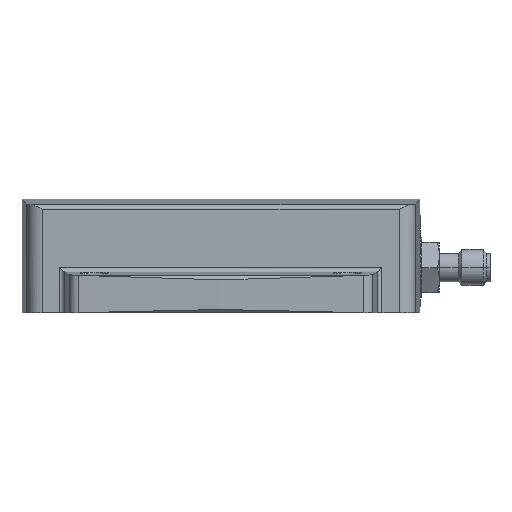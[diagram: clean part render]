
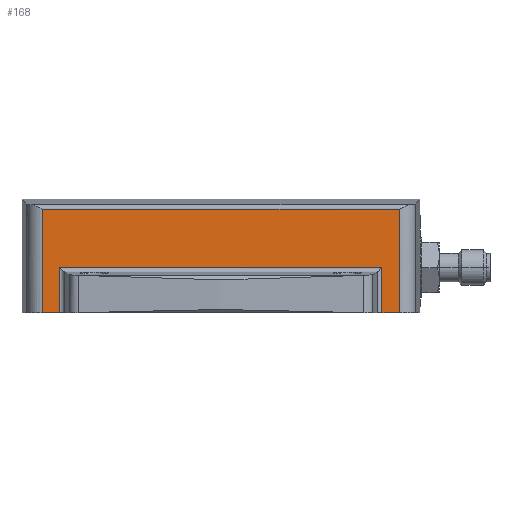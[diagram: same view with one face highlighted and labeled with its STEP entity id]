
A CAD part, left-side view. The second image highlights one B-rep face of the part: STEP entity #168.
In plain terms, the highlighted planar face has unit normal (-1, 0, 0).
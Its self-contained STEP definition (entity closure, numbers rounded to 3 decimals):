
#168 = ADVANCED_FACE( '', ( #380 ), #381, .T. );
#380 = FACE_OUTER_BOUND( '', #612, .T. );
#381 = PLANE( '', #613 );
#612 = EDGE_LOOP( '', ( #1360, #1361, #1362, #1363, #1364, #1365, #1366, #1367 ) );
#613 = AXIS2_PLACEMENT_3D( '', #1368, #1369, #1370 );
#1360 = ORIENTED_EDGE( '', *, *, #1746, .T. );
#1361 = ORIENTED_EDGE( '', *, *, #1774, .F. );
#1362 = ORIENTED_EDGE( '', *, *, #1775, .T. );
#1363 = ORIENTED_EDGE( '', *, *, #1776, .T. );
#1364 = ORIENTED_EDGE( '', *, *, #1646, .T. );
#1365 = ORIENTED_EDGE( '', *, *, #1777, .F. );
#1366 = ORIENTED_EDGE( '', *, *, #1778, .T. );
#1367 = ORIENTED_EDGE( '', *, *, #1772, .T. );
#1368 = CARTESIAN_POINT( '', ( -62.5, -56.337, 0. ) );
#1369 = DIRECTION( '', ( -1., 0., 0. ) );
#1370 = DIRECTION( '', ( 0., -1., 0. ) );
#1646 = EDGE_CURVE( '', #2013, #2011, #2014, .T. );
#1746 = EDGE_CURVE( '', #2157, #2159, #2161, .T. );
#1772 = EDGE_CURVE( '', #2204, #2157, #2205, .T. );
#1774 = EDGE_CURVE( '', #2207, #2159, #2208, .T. );
#1775 = EDGE_CURVE( '', #2207, #2209, #2210, .T. );
#1776 = EDGE_CURVE( '', #2209, #2013, #2211, .T. );
#1777 = EDGE_CURVE( '', #2212, #2011, #2213, .T. );
#1778 = EDGE_CURVE( '', #2212, #2204, #2214, .T. );
#2011 = VERTEX_POINT( '', #3069 );
#2013 = VERTEX_POINT( '', #3071 );
#2014 = LINE( '', #3072, #3073 );
#2157 = VERTEX_POINT( '', #3805 );
#2159 = VERTEX_POINT( '', #3818 );
#2161 = LINE( '', #3831, #3832 );
#2204 = VERTEX_POINT( '', #3968 );
#2205 = LINE( '', #3969, #3970 );
#2207 = VERTEX_POINT( '', #3972 );
#2208 = LINE( '', #3973, #3974 );
#2209 = VERTEX_POINT( '', #3975 );
#2210 = LINE( '', #3976, #3977 );
#2211 = LINE( '', #3978, #3979 );
#2212 = VERTEX_POINT( '', #3980 );
#2213 = LINE( '', #3981, #3982 );
#2214 = LINE( '', #3983, #3984 );
#3069 = CARTESIAN_POINT( '', ( -62.5, -50.882, 14.253 ) );
#3071 = CARTESIAN_POINT( '', ( -62.5, 50.882, 14.253 ) );
#3072 = CARTESIAN_POINT( '', ( -62.5, 100., 14.253 ) );
#3073 = VECTOR( '', #4221, 1. );
#3805 = CARTESIAN_POINT( '', ( -62.5, -56.337, 32.615 ) );
#3818 = CARTESIAN_POINT( '', ( -62.5, 56.337, 32.615 ) );
#3831 = CARTESIAN_POINT( '', ( -62.5, -53.61, 32.615 ) );
#3832 = VECTOR( '', #4354, 1. );
#3968 = CARTESIAN_POINT( '', ( -62.5, -56.337, 0. ) );
#3969 = CARTESIAN_POINT( '', ( -62.5, -56.337, 0. ) );
#3970 = VECTOR( '', #4378, 1. );
#3972 = CARTESIAN_POINT( '', ( -62.5, 56.337, 0. ) );
#3973 = CARTESIAN_POINT( '', ( -62.5, 56.337, 0. ) );
#3974 = VECTOR( '', #4382, 1. );
#3975 = CARTESIAN_POINT( '', ( -62.5, 50.882, 0. ) );
#3976 = CARTESIAN_POINT( '', ( -62.5, 56.337, 0. ) );
#3977 = VECTOR( '', #4383, 1. );
#3978 = CARTESIAN_POINT( '', ( -62.5, 50.882, 0. ) );
#3979 = VECTOR( '', #4384, 1. );
#3980 = CARTESIAN_POINT( '', ( -62.5, -50.882, 0. ) );
#3981 = CARTESIAN_POINT( '', ( -62.5, -50.882, 0. ) );
#3982 = VECTOR( '', #4385, 1. );
#3983 = CARTESIAN_POINT( '', ( -62.5, -50.882, 0. ) );
#3984 = VECTOR( '', #4386, 1. );
#4221 = DIRECTION( '', ( 0., -1., 0. ) );
#4354 = DIRECTION( '', ( 0., 1., 0. ) );
#4378 = DIRECTION( '', ( 0., 0., 1. ) );
#4382 = DIRECTION( '', ( 0., 0., 1. ) );
#4383 = DIRECTION( '', ( 0., -1., 0. ) );
#4384 = DIRECTION( '', ( 0., 0., 1. ) );
#4385 = DIRECTION( '', ( 0., 0., 1. ) );
#4386 = DIRECTION( '', ( 0., -1., 0. ) );
